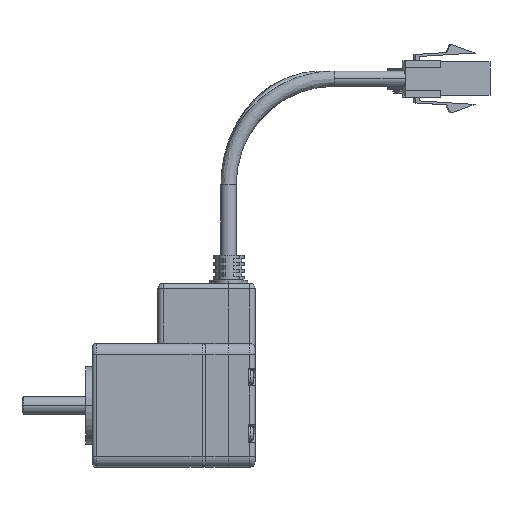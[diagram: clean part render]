
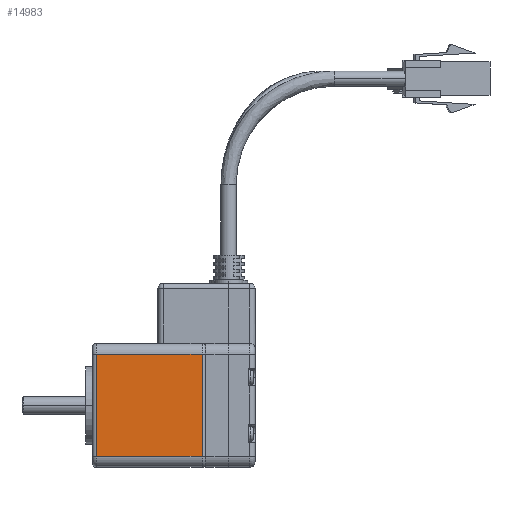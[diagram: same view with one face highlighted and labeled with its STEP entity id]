
A CAD part, top view. The second image highlights one B-rep face of the part: STEP entity #14983.
In plain terms, the highlighted planar face has unit normal (0, 0, 1).
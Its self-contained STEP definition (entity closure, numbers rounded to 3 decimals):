
#142 = VERTEX_POINT ( 'NONE', #7489 ) ;
#920 = LINE ( 'NONE', #13370, #15178 ) ;
#1627 = CARTESIAN_POINT ( 'NONE',  ( 31., 3., 0. ) ) ;
#2853 = DIRECTION ( 'NONE',  ( 1., 0., 0. ) ) ;
#3594 = ORIENTED_EDGE ( 'NONE', *, *, #19403, .T. ) ;
#3922 = EDGE_LOOP ( 'NONE', ( #11955, #3594, #21623, #16059 ) ) ;
#4335 = PLANE ( 'NONE',  #4708 ) ;
#4661 = CARTESIAN_POINT ( 'NONE',  ( 31., 3., 0. ) ) ;
#4708 = AXIS2_PLACEMENT_3D ( 'NONE', #6124, #18620, #7917 ) ;
#5444 = VERTEX_POINT ( 'NONE', #1627 ) ;
#5779 = LINE ( 'NONE', #4661, #23140 ) ;
#6124 = CARTESIAN_POINT ( 'NONE',  ( 32., 0., 0. ) ) ;
#6951 = VERTEX_POINT ( 'NONE', #15382 ) ;
#7489 = CARTESIAN_POINT ( 'NONE',  ( 1., 3., 0. ) ) ;
#7917 = DIRECTION ( 'NONE',  ( 1., 0., 0. ) ) ;
#9166 = VECTOR ( 'NONE', #16222, 1000. ) ;
#9539 = CARTESIAN_POINT ( 'NONE',  ( 32., 32., 0. ) ) ;
#9716 = LINE ( 'NONE', #14418, #9166 ) ;
#11470 = LINE ( 'NONE', #9539, #20397 ) ;
#11955 = ORIENTED_EDGE ( 'NONE', *, *, #21627, .T. ) ;
#12950 = VERTEX_POINT ( 'NONE', #14254 ) ;
#13370 = CARTESIAN_POINT ( 'NONE',  ( 1., 0., 0. ) ) ;
#14254 = CARTESIAN_POINT ( 'NONE',  ( 1., 32., 0. ) ) ;
#14418 = CARTESIAN_POINT ( 'NONE',  ( 31., 0., 0. ) ) ;
#14983 = ADVANCED_FACE ( 'NONE', ( #15641 ), #4335, .T. ) ;
#15178 = VECTOR ( 'NONE', #15181, 1000. ) ;
#15181 = DIRECTION ( 'NONE',  ( 0., -1., 0. ) ) ;
#15382 = CARTESIAN_POINT ( 'NONE',  ( 31., 32., 0. ) ) ;
#15641 = FACE_OUTER_BOUND ( 'NONE', #3922, .T. ) ;
#16059 = ORIENTED_EDGE ( 'NONE', *, *, #17675, .T. ) ;
#16222 = DIRECTION ( 'NONE',  ( 0., 1., 0. ) ) ;
#17675 = EDGE_CURVE ( 'NONE', #6951, #12950, #11470, .T. ) ;
#18620 = DIRECTION ( 'NONE',  ( 0., 0., 1. ) ) ;
#18685 = EDGE_CURVE ( 'NONE', #5444, #6951, #9716, .T. ) ;
#19403 = EDGE_CURVE ( 'NONE', #142, #5444, #5779, .T. ) ;
#20326 = DIRECTION ( 'NONE',  ( -1., 0., 0. ) ) ;
#20397 = VECTOR ( 'NONE', #20326, 1000. ) ;
#21623 = ORIENTED_EDGE ( 'NONE', *, *, #18685, .T. ) ;
#21627 = EDGE_CURVE ( 'NONE', #12950, #142, #920, .T. ) ;
#23140 = VECTOR ( 'NONE', #2853, 1000. ) ;
